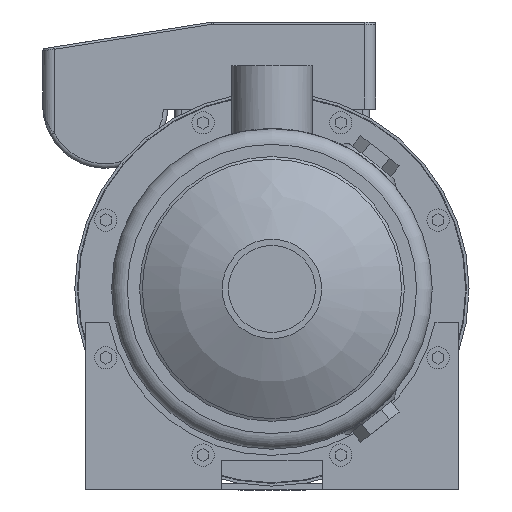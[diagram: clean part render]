
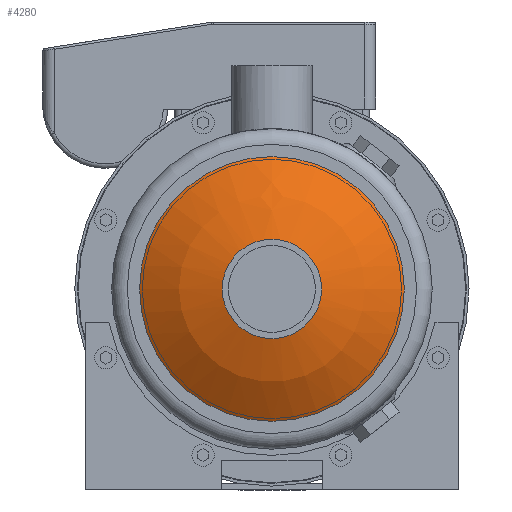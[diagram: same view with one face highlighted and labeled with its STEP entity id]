
A CAD part, left-side view. The second image highlights one B-rep face of the part: STEP entity #4280.
In plain terms, the highlighted spherical face has radius 100 mm.
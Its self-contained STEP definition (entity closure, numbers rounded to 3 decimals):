
#59=SPHERICAL_SURFACE('',#5681,100.);
#969=ORIENTED_EDGE('',*,*,#2140,.T.);
#970=ORIENTED_EDGE('',*,*,#2139,.F.);
#2139=EDGE_CURVE('',#2729,#2729,#3131,.T.);
#2140=EDGE_CURVE('',#2730,#2730,#3132,.T.);
#2729=VERTEX_POINT('',#7606);
#2730=VERTEX_POINT('',#7609);
#3131=CIRCLE('',#5680,22.25);
#3132=CIRCLE('',#5682,59.25);
#3336=EDGE_LOOP('',(#969));
#3337=EDGE_LOOP('',(#970));
#3731=FACE_BOUND('',#3336,.T.);
#3732=FACE_BOUND('',#3337,.T.);
#4280=ADVANCED_FACE('',(#3731,#3732),#59,.T.);
#5680=AXIS2_PLACEMENT_3D('',#7605,#6209,#6210);
#5681=AXIS2_PLACEMENT_3D('',#7607,#6211,#6212);
#5682=AXIS2_PLACEMENT_3D('',#7608,#6213,#6214);
#6209=DIRECTION('',(-1.,0.,0.));
#6210=DIRECTION('',(0.,0.,1.));
#6211=DIRECTION('',(-1.,0.,0.));
#6212=DIRECTION('',(0.,0.,1.));
#6213=DIRECTION('',(-1.,0.,0.));
#6214=DIRECTION('',(0.,0.,1.));
#7605=CARTESIAN_POINT('',(-91.293,0.,0.));
#7606=CARTESIAN_POINT('',(-91.293,0.,22.25));
#7607=CARTESIAN_POINT('',(6.2,0.,0.));
#7608=CARTESIAN_POINT('',(-74.357,0.,0.));
#7609=CARTESIAN_POINT('',(-74.357,0.,59.25));
